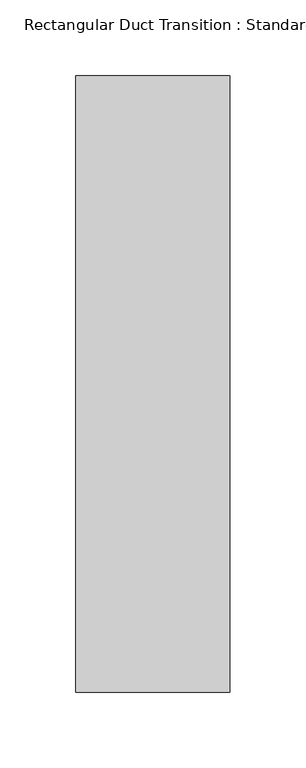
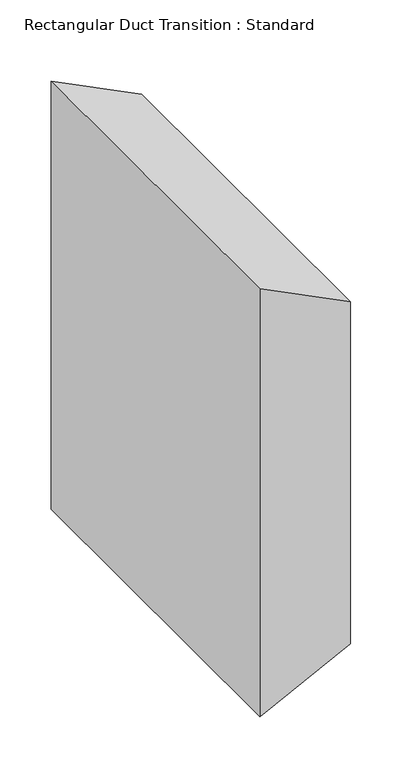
"""IFC4 building model written with IfcOpenShell, lengths in millimetres: duct fitting geometry, Rectangular Duct Transition : Standard."""

from ifc_helpers import new_model, si_unit, frame, origin, place, context, project, spatial, polyline, outline, extrude, source, transform, mapped, element, save


def rectangular_duct_transition_standard_9aa5c4ff(model_context):
    return source(origin(), model_context, "Body", "SweptSolid", [
        extrude(outline(polyline([(254.0, 0.0), (-254.0, 0.0), (-203.2, 101.6), (203.2, 101.6), (254.0, 0.0)])), frame((0.0, -203.2, 0.0), z_axis=(0.0, 1.0, 0.0), x_axis=(0.0, 0.0, 1.0)), (0.0, 0.0, 1.0), 406.4),
        extrude(outline(polyline([(254.0, 0.0), (-254.0, 0.0), (-203.2, 101.6), (203.2, 101.6), (254.0, 0.0)])), frame((0.0, -203.2, 0.0), z_axis=(0.0, 1.0, 0.0), x_axis=(0.0, 0.0, 1.0)), (0.0, 0.0, 1.0), 406.4),
        extrude(outline(polyline([(254.0, 0.0), (-254.0, 0.0), (-203.2, 101.6), (203.2, 101.6), (254.0, 0.0)])), frame((0.0, -203.2, 0.0), z_axis=(0.0, 1.0, 0.0), x_axis=(0.0, 0.0, 1.0)), (0.0, 0.0, 1.0), 406.4),
    ])


if __name__ == "__main__":
    model = new_model("IFC4")
    model_context = context("Model", 3, world=origin())
    ifc_project = project(units=[si_unit("LENGTHUNIT", "METRE", prefix="MILLI")], contexts=[model_context])
    site = spatial("IfcSite", under=ifc_project)
    building = spatial("IfcBuilding", under=site)
    placement = place(None, origin())
    rectangular_duct_transition_standard_shape = rectangular_duct_transition_standard_9aa5c4ff(model_context)
    element("IfcDuctFitting", 1, ObjectType="Rectangular Duct Transition : Standard", at=placement, inside=building, context=model_context, shape_type="MappedRepresentation", body=[
        mapped(rectangular_duct_transition_standard_shape, transform((0.0, 0.0, 0.0), x_axis=(1.0, 0.0, 0.0), y_axis=(0.0, 1.0, 0.0), z_axis=(0.0, 0.0, 1.0))),
    ])
    save(model, "model.ifc")
